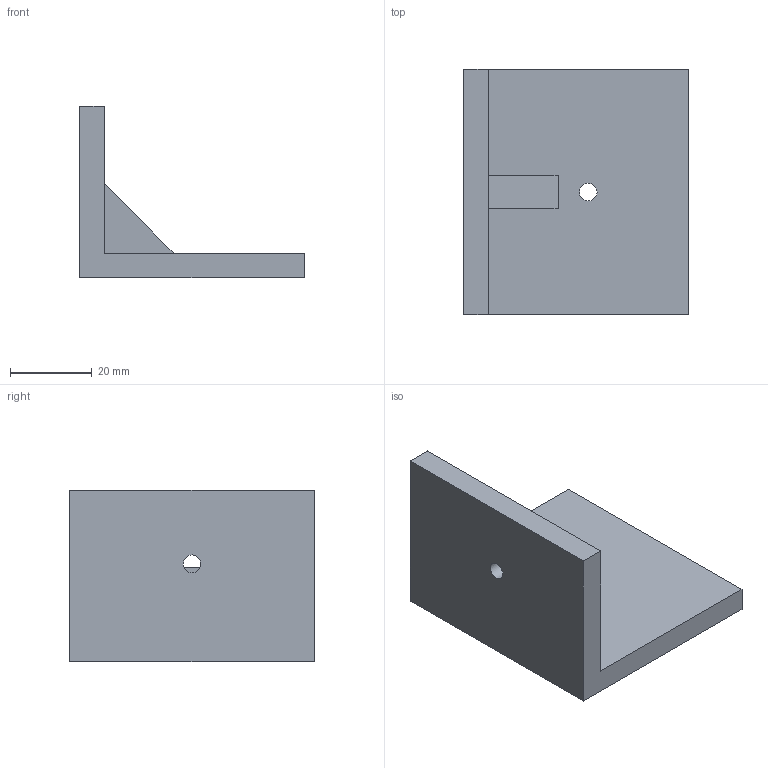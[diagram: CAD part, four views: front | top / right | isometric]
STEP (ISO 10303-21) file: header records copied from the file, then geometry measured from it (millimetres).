
FILE_DESCRIPTION(('Mechanical CAD reference from nasji.com'),'2;1');
FILE_NAME('NASJI.step','',(''),(''),'','NASJI distribution','');
FILE_SCHEMA(('AUTOMOTIVE_DESIGN { 1 0 10303 214 1 1 1 1 }'));
Length unit declared in the file: millimetre
Products named in the file (1): Open CASCADE STEP translator 7.8 136
Bounding box: 55 x 60 x 42 mm (x, y, z)
Volume: 33770 mm3; surface area: 13054.3 mm2
Topology: 1 solids, 1 shells, 14 faces, 37 edges, 24 vertices
Faces by surface type: plane 12, cylinder 2
Full cylindrical faces by diameter (mm): 4.3 x2
Entity records: 935 total; most frequent: CARTESIAN_POINT 172, DIRECTION 140, LINE 95, VECTOR 95, ORIENTED_EDGE 74, PCURVE 74, DEFINITIONAL_REPRESENTATION 74, EDGE_CURVE 37
